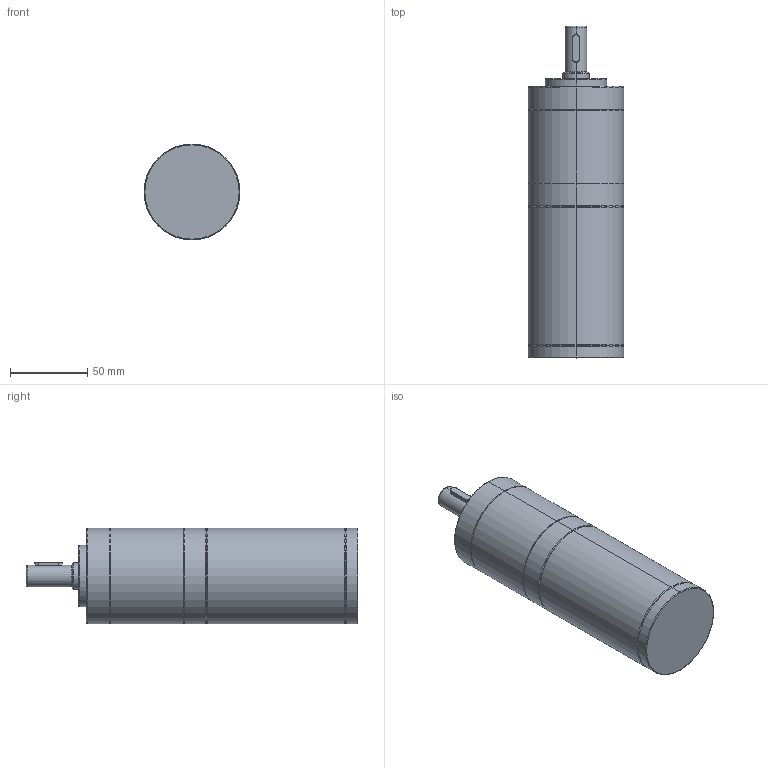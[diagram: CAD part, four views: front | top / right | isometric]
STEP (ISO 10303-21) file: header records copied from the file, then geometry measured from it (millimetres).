
FILE_DESCRIPTION (( 'STEP AP203' ), '1' );
FILE_NAME ('62BLD90W熬厒掀媼撰淕儂.STEP', '2021-07-16T04:28:38', ( '' ), ( '' ), 'SwSTEP 2.0', 'SolidWorks 2021', '' );
FILE_SCHEMA (( 'CONFIG_CONTROL_DESIGN' ));
Length unit declared in the file: millimetre
Products named in the file (3): 62PN媼撰; 62BLD90W熬厒掀媼撰淕儂; 62酗
Assembly tree (2 placements, depth 2):
  62BLD90W熬厒掀媼撰淕儂
    62PN媼撰
    62酗
Bounding box: 62 x 214.7 x 62 mm (x, y, z)
Volume: 533661.9 mm3; surface area: 51278.6 mm2
Topology: 2 solids, 2 shells, 157 faces, 349 edges, 205 vertices
Faces by surface type: plane 51, cylinder 48, cone 42, bspline 12, torus 4
Entity records: 4902 total; most frequent: CARTESIAN_POINT 1154, DIRECTION 773, ORIENTED_EDGE 678, EDGE_CURVE 339, AXIS2_PLACEMENT_3D 300, VERTEX_POINT 205, EDGE_LOOP 176, LINE 173
